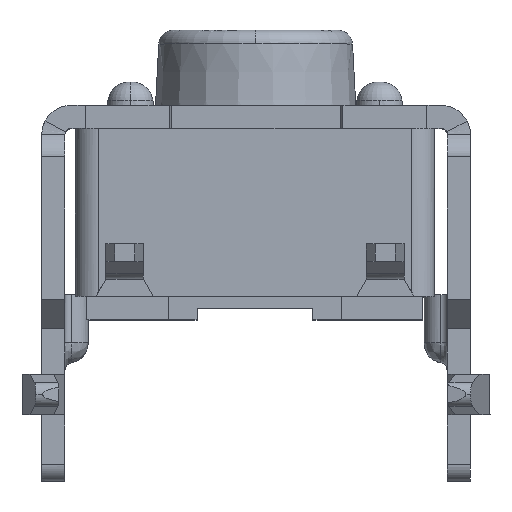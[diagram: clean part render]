
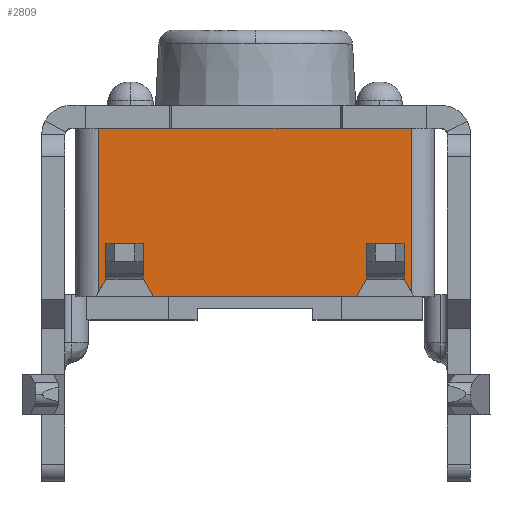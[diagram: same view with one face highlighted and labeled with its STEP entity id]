
A CAD part, top view. The second image highlights one B-rep face of the part: STEP entity #2809.
In plain terms, the highlighted planar face has unit normal (0, 0, 1).
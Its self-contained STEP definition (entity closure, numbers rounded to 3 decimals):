
#667 = VERTEX_POINT ( 'NONE', #6305 ) ;
#669 = EDGE_CURVE ( 'NONE', #667, #670, #6304, .T. ) ;
#670 = VERTEX_POINT ( 'NONE', #6300 ) ;
#1656 = EDGE_CURVE ( 'NONE', #1907, #1657, #8448, .T. ) ;
#1657 = VERTEX_POINT ( 'NONE', #8444 ) ;
#1667 = VERTEX_POINT ( 'NONE', #8436 ) ;
#1707 = EDGE_CURVE ( 'NONE', #3245, #670, #8549, .T. ) ;
#1719 = VERTEX_POINT ( 'NONE', #8534 ) ;
#1721 = EDGE_CURVE ( 'NONE', #1722, #1719, #8533, .T. ) ;
#1722 = VERTEX_POINT ( 'NONE', #8581 ) ;
#1734 = EDGE_CURVE ( 'NONE', #1657, #1667, #8608, .T. ) ;
#1826 = VERTEX_POINT ( 'NONE', #8795 ) ;
#1907 = VERTEX_POINT ( 'NONE', #8958 ) ;
#1909 = EDGE_CURVE ( 'NONE', #1907, #1826, #8957, .T. ) ;
#2483 = EDGE_CURVE ( 'NONE', #1719, #3252, #10146, .T. ) ;
#2780 = EDGE_CURVE ( 'NONE', #2781, #1826, #10603, .T. ) ;
#2781 = VERTEX_POINT ( 'NONE', #10656 ) ;
#2789 = EDGE_CURVE ( 'NONE', #667, #2790, #10648, .T. ) ;
#2790 = VERTEX_POINT ( 'NONE', #10641 ) ;
#2797 = EDGE_CURVE ( 'NONE', #1667, #2798, #10687, .T. ) ;
#2798 = VERTEX_POINT ( 'NONE', #10683 ) ;
#2799 = ORIENTED_EDGE ( 'NONE', *, *, #2800, .F. ) ;
#2800 = EDGE_CURVE ( 'NONE', #2801, #2798, #10682, .T. ) ;
#2801 = VERTEX_POINT ( 'NONE', #10678 ) ;
#2802 = ORIENTED_EDGE ( 'NONE', *, *, #2803, .T. ) ;
#2803 = EDGE_CURVE ( 'NONE', #2801, #1722, #10677, .T. ) ;
#2809 = ADVANCED_FACE ( 'NONE', ( #10673 ), #10672, .T. ) ;
#2810 = EDGE_LOOP ( 'NONE', ( #2811, #2812, #2813, #2876, #2877, #2878, #2879, #2880, #2799, #2802, #2863, #2864, #2865, #2866 ) ) ;
#2811 = ORIENTED_EDGE ( 'NONE', *, *, #669, .F. ) ;
#2812 = ORIENTED_EDGE ( 'NONE', *, *, #2789, .T. ) ;
#2813 = ORIENTED_EDGE ( 'NONE', *, *, #2814, .F. ) ;
#2814 = EDGE_CURVE ( 'NONE', #2781, #2790, #10667, .T. ) ;
#2863 = ORIENTED_EDGE ( 'NONE', *, *, #1721, .T. ) ;
#2864 = ORIENTED_EDGE ( 'NONE', *, *, #2483, .T. ) ;
#2865 = ORIENTED_EDGE ( 'NONE', *, *, #3251, .F. ) ;
#2866 = ORIENTED_EDGE ( 'NONE', *, *, #1707, .T. ) ;
#2876 = ORIENTED_EDGE ( 'NONE', *, *, #2780, .T. ) ;
#2877 = ORIENTED_EDGE ( 'NONE', *, *, #1909, .F. ) ;
#2878 = ORIENTED_EDGE ( 'NONE', *, *, #1656, .T. ) ;
#2879 = ORIENTED_EDGE ( 'NONE', *, *, #1734, .T. ) ;
#2880 = ORIENTED_EDGE ( 'NONE', *, *, #2797, .T. ) ;
#3245 = VERTEX_POINT ( 'NONE', #11331 ) ;
#3251 = EDGE_CURVE ( 'NONE', #3245, #3252, #11324, .T. ) ;
#3252 = VERTEX_POINT ( 'NONE', #11316 ) ;
#6300 = CARTESIAN_POINT ( 'NONE',  ( -1.945, -2.7, 3.1 ) ) ;
#6301 = DIRECTION ( 'NONE',  ( 0., 1., 0. ) ) ;
#6302 = VECTOR ( 'NONE', #6301, 1000. ) ;
#6303 = CARTESIAN_POINT ( 'NONE',  ( -1.945, -2.85, 3.1 ) ) ;
#6304 = LINE ( 'NONE', #6303, #6302 ) ;
#6305 = CARTESIAN_POINT ( 'NONE',  ( -1.945, -3., 3.1 ) ) ;
#8436 = CARTESIAN_POINT ( 'NONE',  ( 2.555, -3., 3.1 ) ) ;
#8444 = CARTESIAN_POINT ( 'NONE',  ( 2.555, -2.7, 3.1 ) ) ;
#8445 = DIRECTION ( 'NONE',  ( 1., 0., 0. ) ) ;
#8446 = VECTOR ( 'NONE', #8445, 1000. ) ;
#8447 = CARTESIAN_POINT ( 'NONE',  ( 2.68, -2.7, 3.1 ) ) ;
#8448 = LINE ( 'NONE', #8447, #8446 ) ;
#8533 = LINE ( 'NONE', #8584, #8583 ) ;
#8534 = CARTESIAN_POINT ( 'NONE',  ( -2.72, -3.217, 3.1 ) ) ;
#8546 = DIRECTION ( 'NONE',  ( 1., 0., 0. ) ) ;
#8547 = VECTOR ( 'NONE', #8546, 1000. ) ;
#8548 = CARTESIAN_POINT ( 'NONE',  ( 2.68, -2.7, 3.1 ) ) ;
#8549 = LINE ( 'NONE', #8548, #8547 ) ;
#8581 = CARTESIAN_POINT ( 'NONE',  ( -2.72, -0.4, 3.1 ) ) ;
#8582 = DIRECTION ( 'NONE',  ( 0., -1., 0. ) ) ;
#8583 = VECTOR ( 'NONE', #8582, 1000. ) ;
#8584 = CARTESIAN_POINT ( 'NONE',  ( -2.72, -0.4, 3.1 ) ) ;
#8605 = DIRECTION ( 'NONE',  ( 0., -1., 0. ) ) ;
#8606 = VECTOR ( 'NONE', #8605, 1000. ) ;
#8607 = CARTESIAN_POINT ( 'NONE',  ( 2.555, -0.4, 3.1 ) ) ;
#8608 = LINE ( 'NONE', #8607, #8606 ) ;
#8795 = CARTESIAN_POINT ( 'NONE',  ( 1.905, -3., 3.1 ) ) ;
#8954 = DIRECTION ( 'NONE',  ( 0., -1., 0. ) ) ;
#8955 = VECTOR ( 'NONE', #8954, 1000. ) ;
#8956 = CARTESIAN_POINT ( 'NONE',  ( 1.905, -2.85, 3.1 ) ) ;
#8957 = LINE ( 'NONE', #8956, #8955 ) ;
#8958 = CARTESIAN_POINT ( 'NONE',  ( 1.905, -2.7, 3.1 ) ) ;
#10138 = DIRECTION ( 'NONE',  ( 0.5, 0.866, 0. ) ) ;
#10139 = VECTOR ( 'NONE', #10138, 1000. ) ;
#10140 = CARTESIAN_POINT ( 'NONE',  ( -2.72, -3.217, 3.1 ) ) ;
#10146 = LINE ( 'NONE', #10140, #10139 ) ;
#10603 = LINE ( 'NONE', #10659, #10658 ) ;
#10641 = CARTESIAN_POINT ( 'NONE',  ( -1.772, -3.3, 3.1 ) ) ;
#10642 = DIRECTION ( 'NONE',  ( 0.5, -0.866, 0. ) ) ;
#10643 = VECTOR ( 'NONE', #10642, 1000. ) ;
#10644 = CARTESIAN_POINT ( 'NONE',  ( -1.945, -3., 3.1 ) ) ;
#10648 = LINE ( 'NONE', #10644, #10643 ) ;
#10656 = CARTESIAN_POINT ( 'NONE',  ( 1.732, -3.3, 3.1 ) ) ;
#10657 = DIRECTION ( 'NONE',  ( 0.5, 0.866, 0. ) ) ;
#10658 = VECTOR ( 'NONE', #10657, 1000. ) ;
#10659 = CARTESIAN_POINT ( 'NONE',  ( 1.732, -3.3, 3.1 ) ) ;
#10664 = DIRECTION ( 'NONE',  ( -1., 0., 0. ) ) ;
#10665 = VECTOR ( 'NONE', #10664, 1000. ) ;
#10666 = CARTESIAN_POINT ( 'NONE',  ( -0.02, -3.3, 3.1 ) ) ;
#10667 = LINE ( 'NONE', #10666, #10665 ) ;
#10668 = DIRECTION ( 'NONE',  ( 1., 0., 0. ) ) ;
#10669 = DIRECTION ( 'NONE',  ( 0., 0., 1. ) ) ;
#10670 = AXIS2_PLACEMENT_3D ( 'NONE', #10671, #10669, #10668 ) ;
#10671 = CARTESIAN_POINT ( 'NONE',  ( 2.68, -0.4, 3.1 ) ) ;
#10672 = PLANE ( 'NONE',  #10670 ) ;
#10673 = FACE_OUTER_BOUND ( 'NONE', #2810, .T. ) ;
#10674 = DIRECTION ( 'NONE',  ( -1., 0., 0. ) ) ;
#10675 = VECTOR ( 'NONE', #10674, 1000. ) ;
#10676 = CARTESIAN_POINT ( 'NONE',  ( -0.02, -0.4, 3.1 ) ) ;
#10677 = LINE ( 'NONE', #10676, #10675 ) ;
#10678 = CARTESIAN_POINT ( 'NONE',  ( 2.68, -0.4, 3.1 ) ) ;
#10679 = DIRECTION ( 'NONE',  ( 0., -1., 0. ) ) ;
#10680 = VECTOR ( 'NONE', #10679, 1000. ) ;
#10681 = CARTESIAN_POINT ( 'NONE',  ( 2.68, -0.4, 3.1 ) ) ;
#10682 = LINE ( 'NONE', #10681, #10680 ) ;
#10683 = CARTESIAN_POINT ( 'NONE',  ( 2.68, -3.217, 3.1 ) ) ;
#10684 = DIRECTION ( 'NONE',  ( 0.5, -0.866, 0. ) ) ;
#10685 = VECTOR ( 'NONE', #10684, 1000. ) ;
#10686 = CARTESIAN_POINT ( 'NONE',  ( 2.728, -3.3, 3.1 ) ) ;
#10687 = LINE ( 'NONE', #10686, #10685 ) ;
#11316 = CARTESIAN_POINT ( 'NONE',  ( -2.595, -3., 3.1 ) ) ;
#11317 = DIRECTION ( 'NONE',  ( 0., -1., 0. ) ) ;
#11318 = VECTOR ( 'NONE', #11317, 1000. ) ;
#11319 = CARTESIAN_POINT ( 'NONE',  ( -2.595, -2.85, 3.1 ) ) ;
#11324 = LINE ( 'NONE', #11319, #11318 ) ;
#11331 = CARTESIAN_POINT ( 'NONE',  ( -2.595, -2.7, 3.1 ) ) ;
